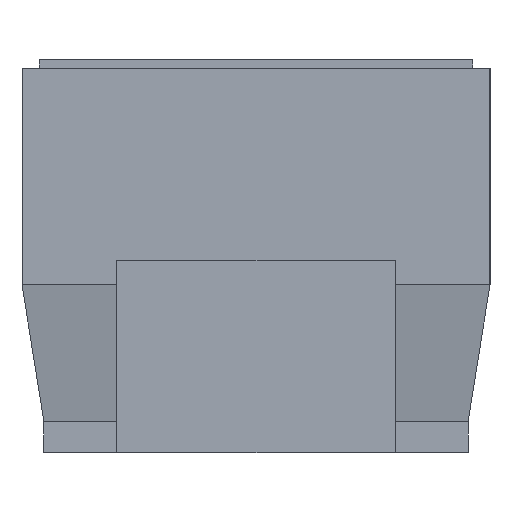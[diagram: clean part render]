
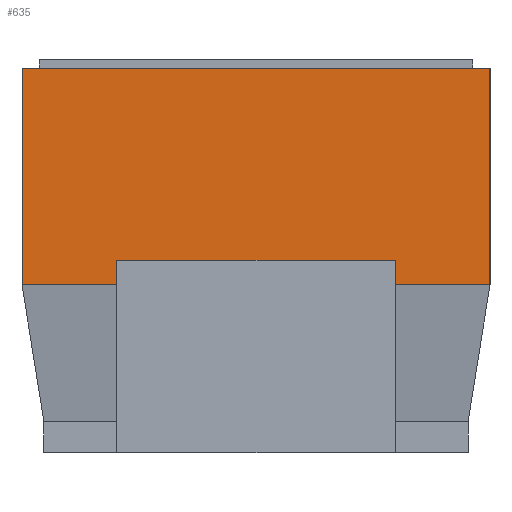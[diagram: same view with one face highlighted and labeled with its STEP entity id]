
A CAD part, left-side view. The second image highlights one B-rep face of the part: STEP entity #635.
In plain terms, the highlighted planar face has unit normal (-1, 0, 0).
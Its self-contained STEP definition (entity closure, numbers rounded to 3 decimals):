
#501=CARTESIAN_POINT('',(-2.445,-1.346,2.21));
#500=VERTEX_POINT('',#501);
#519=CARTESIAN_POINT('',(-2.445,1.346,2.21));
#518=VERTEX_POINT('',#519);
#527=EDGE_CURVE('',#500,#518,#532,.T.);
#532=LINE('',#501,#534);
#534=VECTOR('',#535,2.692);
#535=DIRECTION('',(0.0,1.0,0.0));
#597=CARTESIAN_POINT('',(-2.445,1.346,0.965));
#596=VERTEX_POINT('',#597);
#605=EDGE_CURVE('',#518,#596,#610,.T.);
#610=LINE('',#519,#612);
#612=VECTOR('',#613,1.245);
#613=DIRECTION('',(0.0,0.0,-1.0));
#635=ADVANCED_FACE('',(#641),#636,.T.);
#636=PLANE('',#637);
#637=AXIS2_PLACEMENT_3D('',#638,#639,#640);
#638=CARTESIAN_POINT('',(-2.445,1.346,0.965));
#639=DIRECTION('',(-1.0,0.0,0.0));
#640=DIRECTION('',(0.,0.,1.));
#641=FACE_OUTER_BOUND('',#642,.T.);
#642=EDGE_LOOP('',(#643,#653,#663,#673));
#646=CARTESIAN_POINT('',(-2.445,-1.346,0.965));
#645=VERTEX_POINT('',#646);
#644=EDGE_CURVE('',#645,#596,#649,.T.);
#649=LINE('',#646,#651);
#651=VECTOR('',#652,2.692);
#652=DIRECTION('',(0.0,1.0,0.0));
#643=ORIENTED_EDGE('',*,*,#644,.F.);
#654=EDGE_CURVE('',#500,#645,#659,.T.);
#659=LINE('',#501,#661);
#661=VECTOR('',#662,1.245);
#662=DIRECTION('',(0.0,0.0,-1.0));
#653=ORIENTED_EDGE('',*,*,#654,.F.);
#663=ORIENTED_EDGE('',*,*,#527,.T.);
#673=ORIENTED_EDGE('',*,*,#605,.T.);
